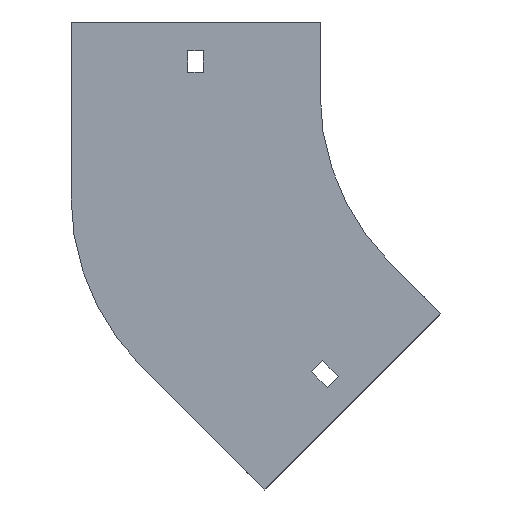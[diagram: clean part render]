
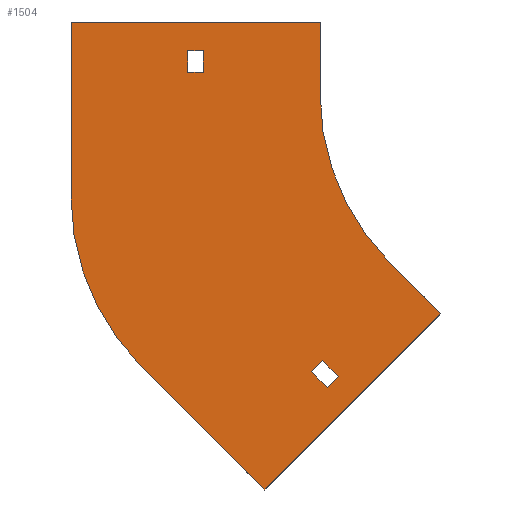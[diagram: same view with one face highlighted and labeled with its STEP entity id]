
A CAD part, front view. The second image highlights one B-rep face of the part: STEP entity #1504.
In plain terms, the highlighted planar face has unit normal (0, -1, 0).
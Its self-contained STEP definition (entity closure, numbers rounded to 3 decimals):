
#61 = AXIS2_PLACEMENT_3D ( 'NONE', #1075, #461, #468 ) ;
#64 = VECTOR ( 'NONE', #1789, 1000. ) ;
#67 = DIRECTION ( 'NONE',  ( 0., -1., 0. ) ) ;
#71 = CIRCLE ( 'NONE', #696, 100. ) ;
#123 = ORIENTED_EDGE ( 'NONE', *, *, #1720, .F. ) ;
#126 = VECTOR ( 'NONE', #1754, 1000. ) ;
#144 = ORIENTED_EDGE ( 'NONE', *, *, #1662, .F. ) ;
#146 = DIRECTION ( 'NONE',  ( 0., 0., 1. ) ) ;
#150 = PLANE ( 'NONE',  #61 ) ;
#154 = DIRECTION ( 'NONE',  ( 0.707, 0., -0.707 ) ) ;
#167 = ORIENTED_EDGE ( 'NONE', *, *, #1236, .T. ) ;
#171 = DIRECTION ( 'NONE',  ( -0.707, 0., -0.707 ) ) ;
#175 = ORIENTED_EDGE ( 'NONE', *, *, #196, .F. ) ;
#190 = EDGE_CURVE ( 'NONE', #596, #1447, #620, .T. ) ;
#192 = DIRECTION ( 'NONE',  ( -0.707, 0., 0.707 ) ) ;
#196 = EDGE_CURVE ( 'NONE', #1548, #1948, #1066, .T. ) ;
#202 = ORIENTED_EDGE ( 'NONE', *, *, #599, .F. ) ;
#227 = CARTESIAN_POINT ( 'NONE',  ( -123.037, 0., -165.463 ) ) ;
#248 = EDGE_LOOP ( 'NONE', ( #167, #1288, #1414, #1188 ) ) ;
#266 = CARTESIAN_POINT ( 'NONE',  ( -174.711, 0., -113.789 ) ) ;
#279 = EDGE_CURVE ( 'NONE', #1712, #596, #1856, .T. ) ;
#288 = CARTESIAN_POINT ( 'NONE',  ( -204., 0., 30. ) ) ;
#336 = ORIENTED_EDGE ( 'NONE', *, *, #279, .F. ) ;
#351 = VECTOR ( 'NONE', #790, 1000. ) ;
#356 = CARTESIAN_POINT ( 'NONE',  ( 0., 0., 0. ) ) ;
#409 = CARTESIAN_POINT ( 'NONE',  ( -104., 0., -43.078 ) ) ;
#412 = VECTOR ( 'NONE', #154, 1000. ) ;
#427 = EDGE_CURVE ( 'NONE', #1152, #1712, #1340, .T. ) ;
#461 = DIRECTION ( 'NONE',  ( 0., -1., 0. ) ) ;
#468 = DIRECTION ( 'NONE',  ( 0., 0., -1. ) ) ;
#474 = FACE_BOUND ( 'NONE', #1896, .T. ) ;
#517 = VERTEX_POINT ( 'NONE', #1239 ) ;
#543 = VECTOR ( 'NONE', #1167, 1000. ) ;
#545 = VERTEX_POINT ( 'NONE', #773 ) ;
#569 = CARTESIAN_POINT ( 'NONE',  ( -97.05, 0., -122.506 ) ) ;
#589 = CARTESIAN_POINT ( 'NONE',  ( -148.75, 0., 18. ) ) ;
#596 = VERTEX_POINT ( 'NONE', #954 ) ;
#599 = EDGE_CURVE ( 'NONE', #1447, #1152, #833, .T. ) ;
#603 = VECTOR ( 'NONE', #1151, 1000. ) ;
#608 = VECTOR ( 'NONE', #1437, 1000. ) ;
#620 = LINE ( 'NONE', #1198, #1258 ) ;
#631 = EDGE_CURVE ( 'NONE', #1903, #1335, #71, .T. ) ;
#639 = VECTOR ( 'NONE', #810, 1000. ) ;
#668 = VECTOR ( 'NONE', #837, 1000. ) ;
#681 = DIRECTION ( 'NONE',  ( 0., 0., -1. ) ) ;
#696 = AXIS2_PLACEMENT_3D ( 'NONE', #356, #67, #681 ) ;
#734 = CARTESIAN_POINT ( 'NONE',  ( -155.25, 0., 9. ) ) ;
#771 = ORIENTED_EDGE ( 'NONE', *, *, #1863, .F. ) ;
#773 = CARTESIAN_POINT ( 'NONE',  ( -148.75, 0., 9. ) ) ;
#775 = CARTESIAN_POINT ( 'NONE',  ( -70.711, 0., -70.711 ) ) ;
#784 = VECTOR ( 'NONE', #192, 1000. ) ;
#790 = DIRECTION ( 'NONE',  ( 1., 0., 0. ) ) ;
#799 = CARTESIAN_POINT ( 'NONE',  ( -103.414, 0., -116.142 ) ) ;
#810 = DIRECTION ( 'NONE',  ( 0., 0., -1. ) ) ;
#832 = CARTESIAN_POINT ( 'NONE',  ( -155.25, 0., 18. ) ) ;
#833 = LINE ( 'NONE', #799, #608 ) ;
#837 = DIRECTION ( 'NONE',  ( 1., 0., 0. ) ) ;
#847 = VECTOR ( 'NONE', #1675, 1000. ) ;
#855 = LINE ( 'NONE', #993, #126 ) ;
#881 = CARTESIAN_POINT ( 'NONE',  ( -155.25, 0., 18. ) ) ;
#892 = ORIENTED_EDGE ( 'NONE', *, *, #1055, .F. ) ;
#953 = LINE ( 'NONE', #963, #639 ) ;
#954 = CARTESIAN_POINT ( 'NONE',  ( -98.818, 0., -111.546 ) ) ;
#956 = CARTESIAN_POINT ( 'NONE',  ( -98.818, 0., -111.546 ) ) ;
#963 = CARTESIAN_POINT ( 'NONE',  ( -148.75, 0., 9. ) ) ;
#993 = CARTESIAN_POINT ( 'NONE',  ( -123.037, 0., -165.463 ) ) ;
#1041 = LINE ( 'NONE', #1652, #412 ) ;
#1055 = EDGE_CURVE ( 'NONE', #1948, #1539, #1425, .T. ) ;
#1066 = LINE ( 'NONE', #1086, #847 ) ;
#1075 = CARTESIAN_POINT ( 'NONE',  ( 0., 0., 0. ) ) ;
#1086 = CARTESIAN_POINT ( 'NONE',  ( -204., 0., -43.078 ) ) ;
#1116 = CARTESIAN_POINT ( 'NONE',  ( -100., 0., 30. ) ) ;
#1131 = ORIENTED_EDGE ( 'NONE', *, *, #427, .F. ) ;
#1143 = LINE ( 'NONE', #1918, #1550 ) ;
#1151 = DIRECTION ( 'NONE',  ( -0.707, 0., -0.707 ) ) ;
#1152 = VERTEX_POINT ( 'NONE', #1876 ) ;
#1166 = DIRECTION ( 'NONE',  ( 0., 1., 0. ) ) ;
#1167 = DIRECTION ( 'NONE',  ( 0.707, 0., 0.707 ) ) ;
#1169 = ORIENTED_EDGE ( 'NONE', *, *, #1185, .F. ) ;
#1185 = EDGE_CURVE ( 'NONE', #1565, #1859, #855, .T. ) ;
#1188 = ORIENTED_EDGE ( 'NONE', *, *, #1742, .T. ) ;
#1193 = VERTEX_POINT ( 'NONE', #589 ) ;
#1198 = CARTESIAN_POINT ( 'NONE',  ( -103.414, 0., -116.142 ) ) ;
#1199 = VECTOR ( 'NONE', #1464, 1000. ) ;
#1236 = EDGE_CURVE ( 'NONE', #517, #1380, #1934, .T. ) ;
#1239 = CARTESIAN_POINT ( 'NONE',  ( -155.25, 0., 9. ) ) ;
#1258 = VECTOR ( 'NONE', #171, 1000. ) ;
#1284 = ORIENTED_EDGE ( 'NONE', *, *, #1875, .F. ) ;
#1288 = ORIENTED_EDGE ( 'NONE', *, *, #1515, .T. ) ;
#1311 = CARTESIAN_POINT ( 'NONE',  ( -100., 0., 0. ) ) ;
#1318 = AXIS2_PLACEMENT_3D ( 'NONE', #409, #1166, #146 ) ;
#1335 = VERTEX_POINT ( 'NONE', #775 ) ;
#1340 = LINE ( 'NONE', #569, #543 ) ;
#1343 = CARTESIAN_POINT ( 'NONE',  ( -100., 0., 30. ) ) ;
#1380 = VERTEX_POINT ( 'NONE', #881 ) ;
#1414 = ORIENTED_EDGE ( 'NONE', *, *, #1535, .T. ) ;
#1425 = LINE ( 'NONE', #1586, #668 ) ;
#1426 = EDGE_LOOP ( 'NONE', ( #892, #175, #1284, #1169, #123, #771, #1651, #144 ) ) ;
#1432 = LINE ( 'NONE', #1616, #603 ) ;
#1437 = DIRECTION ( 'NONE',  ( 0.707, 0., -0.707 ) ) ;
#1447 = VERTEX_POINT ( 'NONE', #1542 ) ;
#1464 = DIRECTION ( 'NONE',  ( 0., 0., 1. ) ) ;
#1497 = VERTEX_POINT ( 'NONE', #1815 ) ;
#1504 = ADVANCED_FACE ( 'NONE', ( #1672, #1824, #474 ), #150, .T. ) ;
#1515 = EDGE_CURVE ( 'NONE', #1380, #1193, #1877, .T. ) ;
#1518 = CIRCLE ( 'NONE', #1318, 100. ) ;
#1535 = EDGE_CURVE ( 'NONE', #1193, #545, #953, .T. ) ;
#1539 = VERTEX_POINT ( 'NONE', #1116 ) ;
#1542 = CARTESIAN_POINT ( 'NONE',  ( -103.414, 0., -116.142 ) ) ;
#1548 = VERTEX_POINT ( 'NONE', #1718 ) ;
#1550 = VECTOR ( 'NONE', #1741, 1000. ) ;
#1565 = VERTEX_POINT ( 'NONE', #227 ) ;
#1586 = CARTESIAN_POINT ( 'NONE',  ( -204., 0., 30. ) ) ;
#1602 = CARTESIAN_POINT ( 'NONE',  ( -92.454, 0., -117.91 ) ) ;
#1616 = CARTESIAN_POINT ( 'NONE',  ( -49.497, 0., -91.924 ) ) ;
#1635 = LINE ( 'NONE', #1343, #64 ) ;
#1651 = ORIENTED_EDGE ( 'NONE', *, *, #631, .F. ) ;
#1652 = CARTESIAN_POINT ( 'NONE',  ( -70.711, 0., -70.711 ) ) ;
#1662 = EDGE_CURVE ( 'NONE', #1539, #1903, #1635, .T. ) ;
#1672 = FACE_BOUND ( 'NONE', #248, .T. ) ;
#1675 = DIRECTION ( 'NONE',  ( 0., 0., 1. ) ) ;
#1712 = VERTEX_POINT ( 'NONE', #1602 ) ;
#1718 = CARTESIAN_POINT ( 'NONE',  ( -204., 0., -43.078 ) ) ;
#1720 = EDGE_CURVE ( 'NONE', #1497, #1565, #1432, .T. ) ;
#1741 = DIRECTION ( 'NONE',  ( -1., 0., 0. ) ) ;
#1742 = EDGE_CURVE ( 'NONE', #545, #517, #1143, .T. ) ;
#1747 = ORIENTED_EDGE ( 'NONE', *, *, #190, .F. ) ;
#1754 = DIRECTION ( 'NONE',  ( -0.707, 0., 0.707 ) ) ;
#1789 = DIRECTION ( 'NONE',  ( 0., 0., -1. ) ) ;
#1815 = CARTESIAN_POINT ( 'NONE',  ( -49.497, 0., -91.924 ) ) ;
#1824 = FACE_OUTER_BOUND ( 'NONE', #1426, .T. ) ;
#1856 = LINE ( 'NONE', #956, #784 ) ;
#1859 = VERTEX_POINT ( 'NONE', #266 ) ;
#1863 = EDGE_CURVE ( 'NONE', #1335, #1497, #1041, .T. ) ;
#1875 = EDGE_CURVE ( 'NONE', #1859, #1548, #1518, .T. ) ;
#1876 = CARTESIAN_POINT ( 'NONE',  ( -97.05, 0., -122.506 ) ) ;
#1877 = LINE ( 'NONE', #832, #351 ) ;
#1896 = EDGE_LOOP ( 'NONE', ( #1131, #202, #1747, #336 ) ) ;
#1903 = VERTEX_POINT ( 'NONE', #1311 ) ;
#1918 = CARTESIAN_POINT ( 'NONE',  ( -155.25, 0., 9. ) ) ;
#1934 = LINE ( 'NONE', #734, #1199 ) ;
#1948 = VERTEX_POINT ( 'NONE', #288 ) ;
